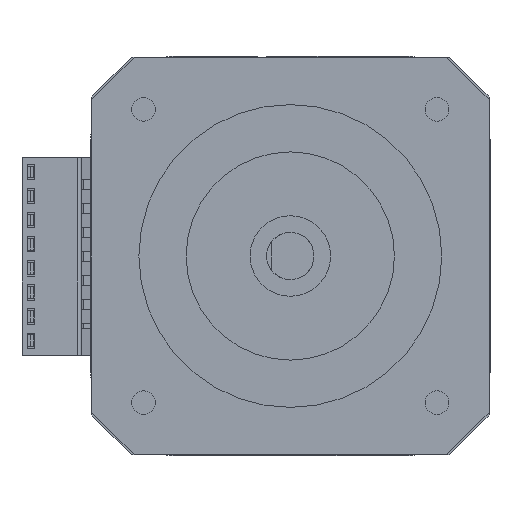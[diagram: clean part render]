
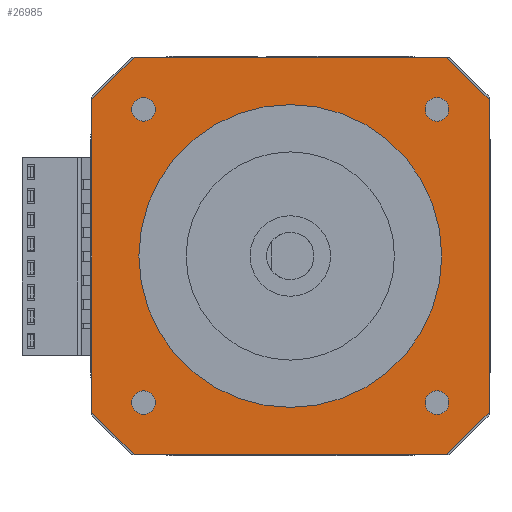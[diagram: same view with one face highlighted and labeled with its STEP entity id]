
A CAD part, front view. The second image highlights one B-rep face of the part: STEP entity #26985.
In plain terms, the highlighted planar face has unit normal (0, -1, 0).
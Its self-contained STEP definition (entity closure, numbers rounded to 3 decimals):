
#1476=DIRECTION('',(0.707,0.,-0.707));
#1477=VECTOR('',#1476,6.364);
#1478=CARTESIAN_POINT('',(37.5,31.,0.));
#1479=LINE('',#1478,#1477);
#1480=DIRECTION('',(0.,0.,-1.));
#1481=VECTOR('',#1480,33.);
#1482=CARTESIAN_POINT('',(42.,31.,-4.5));
#1483=LINE('',#1482,#1481);
#1484=DIRECTION('',(-0.707,0.,-0.707));
#1485=VECTOR('',#1484,6.364);
#1486=CARTESIAN_POINT('',(42.,31.,-37.5));
#1487=LINE('',#1486,#1485);
#1488=DIRECTION('',(-0.707,0.,0.707));
#1489=VECTOR('',#1488,6.364);
#1490=CARTESIAN_POINT('',(4.5,31.,-42.));
#1491=LINE('',#1490,#1489);
#1492=DIRECTION('',(0.707,0.,0.707));
#1493=VECTOR('',#1492,6.364);
#1494=CARTESIAN_POINT('',(0.,31.,-4.5));
#1495=LINE('',#1494,#1493);
#1496=CARTESIAN_POINT('',(5.5,31.,-36.5));
#1497=DIRECTION('',(0.,-1.,0.));
#1498=DIRECTION('',(-1.,0.,0.));
#1499=AXIS2_PLACEMENT_3D('',#1496,#1497,#1498);
#1501=CARTESIAN_POINT('',(5.5,31.,-36.5));
#1502=DIRECTION('',(0.,-1.,0.));
#1503=DIRECTION('',(1.,0.,0.));
#1504=AXIS2_PLACEMENT_3D('',#1501,#1502,#1503);
#1506=CARTESIAN_POINT('',(36.5,31.,-36.5));
#1507=DIRECTION('',(0.,-1.,0.));
#1508=DIRECTION('',(-1.,0.,0.));
#1509=AXIS2_PLACEMENT_3D('',#1506,#1507,#1508);
#1511=CARTESIAN_POINT('',(36.5,31.,-36.5));
#1512=DIRECTION('',(0.,-1.,0.));
#1513=DIRECTION('',(1.,0.,0.));
#1514=AXIS2_PLACEMENT_3D('',#1511,#1512,#1513);
#1516=CARTESIAN_POINT('',(5.5,31.,-5.5));
#1517=DIRECTION('',(0.,-1.,0.));
#1518=DIRECTION('',(-1.,0.,0.));
#1519=AXIS2_PLACEMENT_3D('',#1516,#1517,#1518);
#1521=CARTESIAN_POINT('',(5.5,31.,-5.5));
#1522=DIRECTION('',(0.,-1.,0.));
#1523=DIRECTION('',(1.,0.,0.));
#1524=AXIS2_PLACEMENT_3D('',#1521,#1522,#1523);
#1526=CARTESIAN_POINT('',(36.5,31.,-5.5));
#1527=DIRECTION('',(0.,-1.,0.));
#1528=DIRECTION('',(-1.,0.,0.));
#1529=AXIS2_PLACEMENT_3D('',#1526,#1527,#1528);
#1531=CARTESIAN_POINT('',(36.5,31.,-5.5));
#1532=DIRECTION('',(0.,-1.,0.));
#1533=DIRECTION('',(1.,0.,0.));
#1534=AXIS2_PLACEMENT_3D('',#1531,#1532,#1533);
#1536=CARTESIAN_POINT('',(21.,31.,-21.));
#1537=DIRECTION('',(0.,-1.,0.));
#1538=DIRECTION('',(-1.,0.,0.));
#1539=AXIS2_PLACEMENT_3D('',#1536,#1537,#1538);
#1541=CARTESIAN_POINT('',(21.,31.,-21.));
#1542=DIRECTION('',(0.,-1.,0.));
#1543=DIRECTION('',(1.,0.,0.));
#1544=AXIS2_PLACEMENT_3D('',#1541,#1542,#1543);
#1554=DIRECTION('',(-1.,0.,0.));
#1555=VECTOR('',#1554,33.);
#1556=CARTESIAN_POINT('',(37.5,31.,0.));
#1557=LINE('',#1556,#1555);
#7429=DIRECTION('',(0.,0.,-1.));
#7430=VECTOR('',#7429,33.);
#7431=CARTESIAN_POINT('',(0.,31.,-4.5));
#7432=LINE('',#7431,#7430);
#7449=DIRECTION('',(1.,0.,0.));
#7450=VECTOR('',#7449,33.);
#7451=CARTESIAN_POINT('',(4.5,31.,-42.));
#7452=LINE('',#7451,#7450);
#22427=CARTESIAN_POINT('',(42.,31.,-37.5));
#22429=VERTEX_POINT('',#22427);
#22435=CARTESIAN_POINT('',(42.,31.,-4.5));
#22436=VERTEX_POINT('',#22435);
#22437=CARTESIAN_POINT('',(37.5,31.,0.));
#22439=VERTEX_POINT('',#22437);
#22445=CARTESIAN_POINT('',(4.5,31.,0.));
#22446=VERTEX_POINT('',#22445);
#22449=CARTESIAN_POINT('',(0.,31.,-4.5));
#22450=VERTEX_POINT('',#22449);
#22457=CARTESIAN_POINT('',(0.,31.,-37.5));
#22458=VERTEX_POINT('',#22457);
#22461=CARTESIAN_POINT('',(4.5,31.,-42.));
#22462=VERTEX_POINT('',#22461);
#22469=CARTESIAN_POINT('',(37.5,31.,-42.));
#22470=VERTEX_POINT('',#22469);
#22471=CARTESIAN_POINT('',(6.75,31.,-36.5));
#22472=VERTEX_POINT('',#22471);
#22473=CARTESIAN_POINT('',(4.25,31.,-36.5));
#22474=VERTEX_POINT('',#22473);
#22475=CARTESIAN_POINT('',(37.75,31.,-36.5));
#22476=VERTEX_POINT('',#22475);
#22477=CARTESIAN_POINT('',(35.25,31.,-36.5));
#22478=VERTEX_POINT('',#22477);
#22479=CARTESIAN_POINT('',(6.75,31.,-5.5));
#22480=VERTEX_POINT('',#22479);
#22481=CARTESIAN_POINT('',(4.25,31.,-5.5));
#22482=VERTEX_POINT('',#22481);
#22483=CARTESIAN_POINT('',(37.75,31.,-5.5));
#22484=VERTEX_POINT('',#22483);
#22485=CARTESIAN_POINT('',(35.25,31.,-5.5));
#22486=VERTEX_POINT('',#22485);
#22488=CARTESIAN_POINT('',(37.,31.,-21.));
#22490=VERTEX_POINT('',#22488);
#22491=CARTESIAN_POINT('',(5.,31.,-21.));
#22493=VERTEX_POINT('',#22491);
#26934=CARTESIAN_POINT('',(21.,31.,-21.));
#26935=DIRECTION('',(0.,1.,0.));
#26936=DIRECTION('',(1.,0.,0.));
#26937=AXIS2_PLACEMENT_3D('',#26934,#26935,#26936);
#26938=PLANE('',#26937);
#26940=ORIENTED_EDGE('',*,*,#26939,.F.);
#26942=ORIENTED_EDGE('',*,*,#26941,.T.);
#26944=ORIENTED_EDGE('',*,*,#26943,.T.);
#26946=ORIENTED_EDGE('',*,*,#26945,.T.);
#26948=ORIENTED_EDGE('',*,*,#26947,.F.);
#26950=ORIENTED_EDGE('',*,*,#26949,.T.);
#26952=ORIENTED_EDGE('',*,*,#26951,.F.);
#26954=ORIENTED_EDGE('',*,*,#26953,.T.);
#26955=EDGE_LOOP('',(#26940,#26942,#26944,#26946,#26948,#26950,#26952,#26954));
#26956=FACE_OUTER_BOUND('',#26955,.F.);
#26958=ORIENTED_EDGE('',*,*,#26957,.T.);
#26960=ORIENTED_EDGE('',*,*,#26959,.T.);
#26961=EDGE_LOOP('',(#26958,#26960));
#26962=FACE_BOUND('',#26961,.F.);
#26964=ORIENTED_EDGE('',*,*,#26963,.T.);
#26966=ORIENTED_EDGE('',*,*,#26965,.T.);
#26967=EDGE_LOOP('',(#26964,#26966));
#26968=FACE_BOUND('',#26967,.F.);
#26970=ORIENTED_EDGE('',*,*,#26969,.T.);
#26972=ORIENTED_EDGE('',*,*,#26971,.T.);
#26973=EDGE_LOOP('',(#26970,#26972));
#26974=FACE_BOUND('',#26973,.F.);
#26976=ORIENTED_EDGE('',*,*,#26975,.T.);
#26978=ORIENTED_EDGE('',*,*,#26977,.T.);
#26979=EDGE_LOOP('',(#26976,#26978));
#26980=FACE_BOUND('',#26979,.F.);
#26981=ORIENTED_EDGE('',*,*,#26899,.T.);
#26982=ORIENTED_EDGE('',*,*,#26921,.T.);
#26983=EDGE_LOOP('',(#26981,#26982));
#26984=FACE_BOUND('',#26983,.F.);
#26985=ADVANCED_FACE('',(#26956,#26962,#26968,#26974,#26980,#26984),#26938,.F.);
#1500=CIRCLE('',#1499,1.25);
#1505=CIRCLE('',#1504,1.25);
#1510=CIRCLE('',#1509,1.25);
#1515=CIRCLE('',#1514,1.25);
#1520=CIRCLE('',#1519,1.25);
#1525=CIRCLE('',#1524,1.25);
#1530=CIRCLE('',#1529,1.25);
#1535=CIRCLE('',#1534,1.25);
#1540=CIRCLE('',#1539,16.);
#1545=CIRCLE('',#1544,16.);
#26899=EDGE_CURVE('',#22493,#22490,#1540,.T.);
#26921=EDGE_CURVE('',#22490,#22493,#1545,.T.);
#26939=EDGE_CURVE('',#22439,#22446,#1557,.T.);
#26941=EDGE_CURVE('',#22439,#22436,#1479,.T.);
#26943=EDGE_CURVE('',#22436,#22429,#1483,.T.);
#26945=EDGE_CURVE('',#22429,#22470,#1487,.T.);
#26947=EDGE_CURVE('',#22462,#22470,#7452,.T.);
#26949=EDGE_CURVE('',#22462,#22458,#1491,.T.);
#26951=EDGE_CURVE('',#22450,#22458,#7432,.T.);
#26953=EDGE_CURVE('',#22450,#22446,#1495,.T.);
#26957=EDGE_CURVE('',#22474,#22472,#1500,.T.);
#26959=EDGE_CURVE('',#22472,#22474,#1505,.T.);
#26963=EDGE_CURVE('',#22478,#22476,#1510,.T.);
#26965=EDGE_CURVE('',#22476,#22478,#1515,.T.);
#26969=EDGE_CURVE('',#22482,#22480,#1520,.T.);
#26971=EDGE_CURVE('',#22480,#22482,#1525,.T.);
#26975=EDGE_CURVE('',#22486,#22484,#1530,.T.);
#26977=EDGE_CURVE('',#22484,#22486,#1535,.T.);
